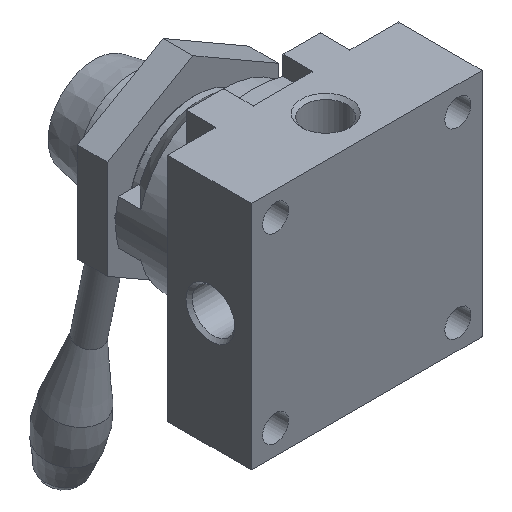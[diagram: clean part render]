
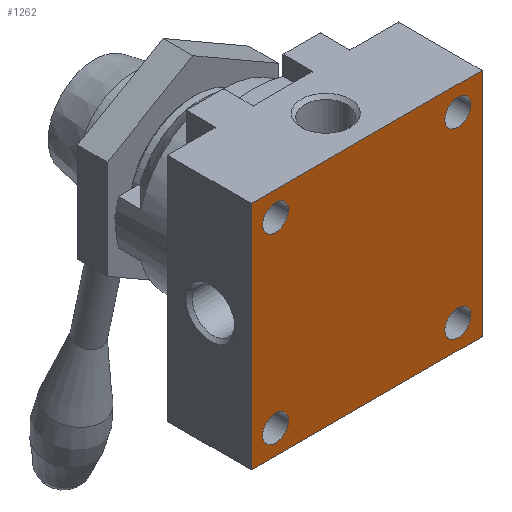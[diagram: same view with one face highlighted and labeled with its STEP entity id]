
A CAD part, isometric view. The second image highlights one B-rep face of the part: STEP entity #1262.
In plain terms, the highlighted planar face has unit normal (0, -1, 0).
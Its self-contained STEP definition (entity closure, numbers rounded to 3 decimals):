
#48=FACE_BOUND('',#427,.T.);
#49=FACE_BOUND('',#428,.T.);
#50=FACE_BOUND('',#429,.T.);
#51=FACE_BOUND('',#430,.T.);
#101=LINE('',#2080,#211);
#104=LINE('',#2087,#214);
#110=LINE('',#2099,#220);
#112=LINE('',#2104,#222);
#211=VECTOR('',#1610,1000.);
#214=VECTOR('',#1617,1000.);
#220=VECTOR('',#1627,1000.);
#222=VECTOR('',#1633,1000.);
#290=PLANE('',#1391);
#340=FACE_OUTER_BOUND('',#426,.T.);
#426=EDGE_LOOP('',(#993,#994,#995,#996));
#427=EDGE_LOOP('',(#997));
#428=EDGE_LOOP('',(#998));
#429=EDGE_LOOP('',(#999));
#430=EDGE_LOOP('',(#1000));
#525=CIRCLE('',#1392,3.5);
#526=CIRCLE('',#1393,3.5);
#527=CIRCLE('',#1394,3.5);
#528=CIRCLE('',#1395,3.5);
#628=VERTEX_POINT('',#2078);
#629=VERTEX_POINT('',#2079);
#631=VERTEX_POINT('',#2086);
#635=VERTEX_POINT('',#2098);
#640=VERTEX_POINT('',#2114);
#641=VERTEX_POINT('',#2116);
#642=VERTEX_POINT('',#2118);
#643=VERTEX_POINT('',#2120);
#760=EDGE_CURVE('',#628,#629,#101,.T.);
#764=EDGE_CURVE('',#629,#631,#104,.T.);
#771=EDGE_CURVE('',#631,#635,#110,.T.);
#774=EDGE_CURVE('',#635,#628,#112,.T.);
#780=EDGE_CURVE('',#640,#640,#525,.T.);
#781=EDGE_CURVE('',#641,#641,#526,.T.);
#782=EDGE_CURVE('',#642,#642,#527,.T.);
#783=EDGE_CURVE('',#643,#643,#528,.T.);
#993=ORIENTED_EDGE('',*,*,#760,.F.);
#994=ORIENTED_EDGE('',*,*,#774,.F.);
#995=ORIENTED_EDGE('',*,*,#771,.F.);
#996=ORIENTED_EDGE('',*,*,#764,.F.);
#997=ORIENTED_EDGE('',*,*,#780,.T.);
#998=ORIENTED_EDGE('',*,*,#781,.T.);
#999=ORIENTED_EDGE('',*,*,#782,.T.);
#1000=ORIENTED_EDGE('',*,*,#783,.T.);
#1262=ADVANCED_FACE('',(#340,#48,#49,#50,#51),#290,.F.);
#1391=AXIS2_PLACEMENT_3D('',#2113,#1640,#1641);
#1392=AXIS2_PLACEMENT_3D('',#2115,#1642,#1643);
#1393=AXIS2_PLACEMENT_3D('',#2117,#1644,#1645);
#1394=AXIS2_PLACEMENT_3D('',#2119,#1646,#1647);
#1395=AXIS2_PLACEMENT_3D('',#2121,#1648,#1649);
#1610=DIRECTION('',(0.,0.,1.));
#1617=DIRECTION('',(1.,0.,0.));
#1627=DIRECTION('',(0.,0.,-1.));
#1633=DIRECTION('',(-1.,0.,0.));
#1640=DIRECTION('center_axis',(0.,1.,0.));
#1641=DIRECTION('ref_axis',(0.,0.,1.));
#1642=DIRECTION('center_axis',(0.,1.,0.));
#1643=DIRECTION('ref_axis',(0.,0.,1.));
#1644=DIRECTION('center_axis',(0.,1.,0.));
#1645=DIRECTION('ref_axis',(0.,0.,1.));
#1646=DIRECTION('center_axis',(0.,1.,0.));
#1647=DIRECTION('ref_axis',(0.,0.,1.));
#1648=DIRECTION('center_axis',(0.,1.,0.));
#1649=DIRECTION('ref_axis',(0.,0.,1.));
#2078=CARTESIAN_POINT('',(0.,0.,0.));
#2079=CARTESIAN_POINT('',(0.,0.,62.));
#2080=CARTESIAN_POINT('',(0.,0.,0.));
#2086=CARTESIAN_POINT('',(62.,0.,62.));
#2087=CARTESIAN_POINT('',(0.,0.,62.));
#2098=CARTESIAN_POINT('',(62.,0.,0.));
#2099=CARTESIAN_POINT('',(62.,0.,62.));
#2104=CARTESIAN_POINT('',(62.,0.,0.));
#2113=CARTESIAN_POINT('Origin',(0.,0.,0.));
#2114=CARTESIAN_POINT('',(55.5,0.,52.));
#2115=CARTESIAN_POINT('Origin',(55.5,0.,55.5));
#2116=CARTESIAN_POINT('',(6.5,0.,52.));
#2117=CARTESIAN_POINT('Origin',(6.5,0.,55.5));
#2118=CARTESIAN_POINT('',(6.5,0.,3.));
#2119=CARTESIAN_POINT('Origin',(6.5,0.,6.5));
#2120=CARTESIAN_POINT('',(55.5,0.,3.));
#2121=CARTESIAN_POINT('Origin',(55.5,0.,6.5));
